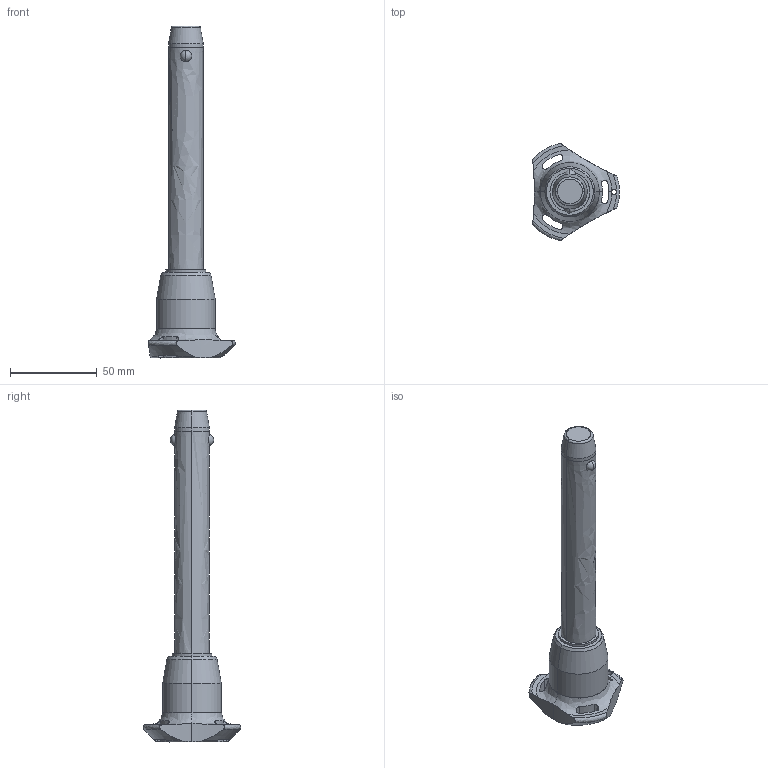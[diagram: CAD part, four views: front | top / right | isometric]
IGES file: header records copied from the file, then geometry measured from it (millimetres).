
Start section: SolidWorks IGES file using analytic representation for surfaces
Global section: file name: C:\Users\ianosborn\Desktop\QR1736_v2\QR1736_v2_20251115_IGES\QR1736.M20-120-T.igs; native system: SolidWorks 2019; preprocessor: SolidWorks 2019; author: IanOsborn; date: 251113.121325; units: millimetre
Bounding box: 50.03 x 56.02 x 191.2 mm (x, y, z)
Surface area: 18507.5 mm2 (no closed solid volume)
Topology: 0 solids, 0 shells, 68 faces, 1382 edges, 1378 vertices
Faces by surface type: revolution 52, bspline 16
